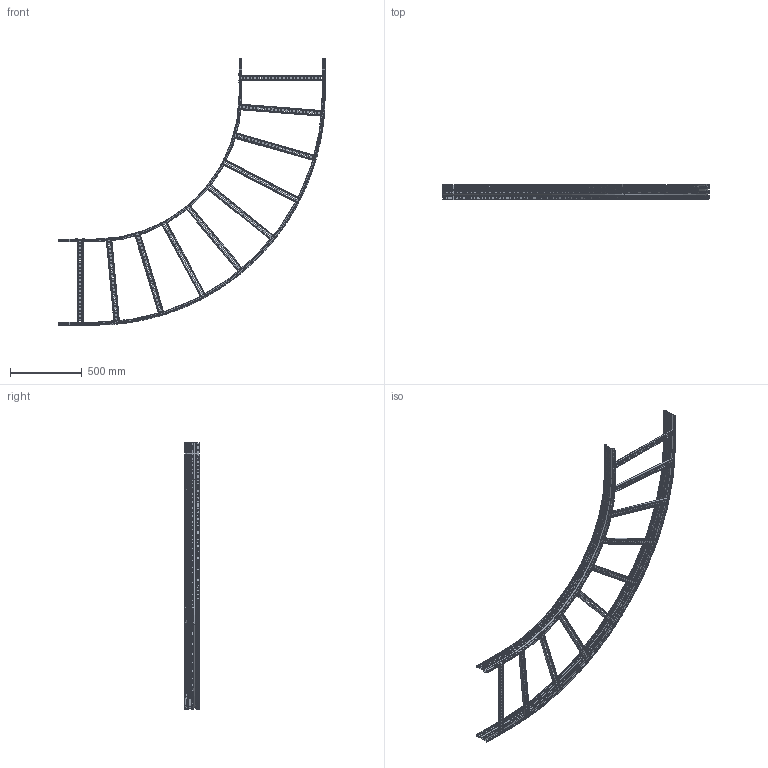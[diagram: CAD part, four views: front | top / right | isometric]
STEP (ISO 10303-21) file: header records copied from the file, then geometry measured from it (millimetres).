
FILE_DESCRIPTION (( 'STEP AP203' ), '1' );
FILE_NAME ('ULD116 (R1000).STEP', '2015-03-30T13:25:35', ( '' ), ( '' ), 'SwSTEP 2.0', 'SolidWorks 2014', '' );
FILE_SCHEMA (( 'CONFIG_CONTROL_DESIGN' ));
Length unit declared in the file: millimetre
Products named in the file (4): 呧翲歑鍙 碴麔謥臇鴇 100 R1000; 呧翲歑鍙  縺賾緱鴇 90 H=100 2擤 R1000_600; Traversino 39x19x1.5_1_600:(1,5); ULD116 (R1000)
Assembly tree (12 placements, depth 2):
  ULD116 (R1000)
    呧翲歑鍙 碴麔謥臇鴇 100 R1000
    呧翲歑鍙  縺賾緱鴇 90 H=100 2擤 R1000_600
    Traversino 39x19x1.5_1_600:(1,5)  x10
Bounding box: 1858.7 x 102.99 x 1858.7 mm (x, y, z)
Volume: 2379428.6 mm3; surface area: 2766259.9 mm2
Topology: 12 solids, 12 shells, 7884 faces, 22355 edges, 14583 vertices
Faces by surface type: plane 3835, cylinder 3501, bspline 484, torus 56, cone 8
Entity records: 220625 total; most frequent: CARTESIAN_POINT 91804, ORIENTED_EDGE 29518, DIRECTION 22464, EDGE_CURVE 14759, VERTEX_POINT 9759, AXIS2_PLACEMENT_3D 7854, LINE 6756, VECTOR 6756
